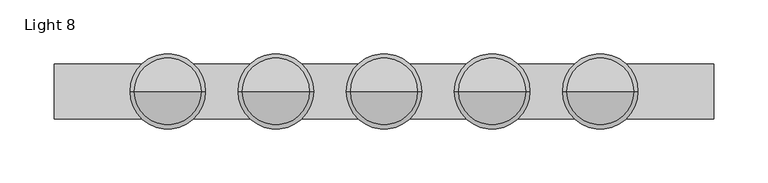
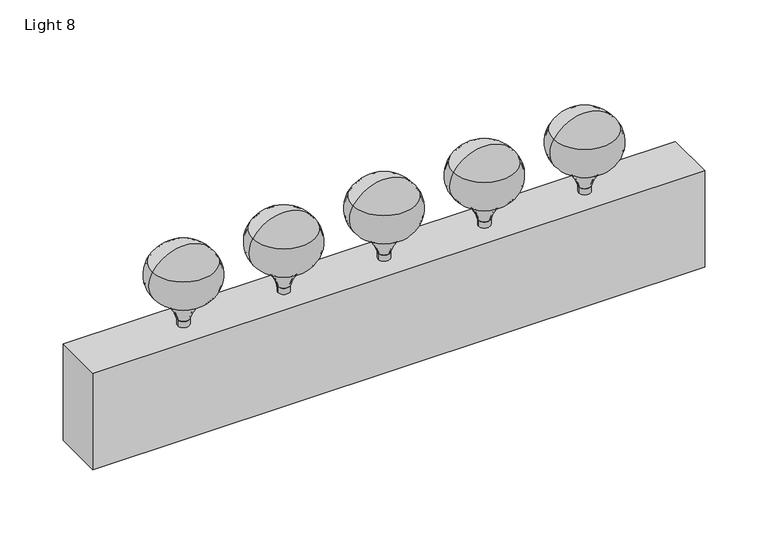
"""IFC4 building model written with IfcOpenShell, lengths in millimetres: light fixture geometry, Lighting_Fixtures_Sconce_Lamp_Cosmetic_LED : Light 8."""

from ifc_helpers import new_model, si_unit, point, frame, origin, origin_with_axes, place, context, project, spatial, polyline, circle_curve, ellipse_curve, trimmed, outline, extrude, source, transform, mapped, element, save
from ifc_brep_helpers import plane_surface, cylinder_surface, revolved_surface, advanced_brep


def light_8_5fd1197a(model_context):
    return source(origin(), model_context, "Body", "SolidModel", [
        advanced_brep(
        [(199.8265625, 0.0, 107.9422137), (205.6627439, 0.0, 107.9422137), (193.9903811, 0.0, 107.9422137), (193.9903811, 0.0, 101.6), (205.6627439, 0.0, 101.6), (199.8265625, 0.0, 101.6)],
        [
            (0, 1),
            (1, 2, circle_curve(frame((199.8265625, 0.0, 107.9422137), z_axis=(0.0, 0.0, 1.0), x_axis=(1.0, 0.0, 0.0)), 5.8361814)),
            (2, 0),
            (2, 1, circle_curve(frame((199.8265625, 0.0, 107.9422137), z_axis=(0.0, 0.0, 1.0), x_axis=(1.0, 0.0, 0.0)), 5.8361814)),
            (3, 4, circle_curve(frame((199.8265625, 0.0, 101.6), z_axis=(0.0, 0.0, -1.0), x_axis=(1.0, 0.0, 0.0)), 5.8361814)),
            (4, 5),
            (5, 3),
            (4, 3, circle_curve(frame((199.8265625, 0.0, 101.6), z_axis=(0.0, 0.0, -1.0), x_axis=(1.0, 0.0, 0.0)), 5.8361814)),
            (1, 4),
            (3, 2),
        ],
        [
            plane_surface(frame((199.8265625, 0.0, 107.9422137), z_axis=(0.0, 0.0, 1.0), x_axis=(1.0, 0.0, 0.0))),
            plane_surface(frame((199.8265625, 0.0, 101.6), z_axis=(0.0, 0.0, -1.0), x_axis=(1.0, 0.0, 0.0))),
            cylinder_surface(frame((199.8265625, 0.0, 321.7032089), z_axis=(0.0, 0.0, 1.0), x_axis=(1.0, 0.0, 0.0)), 5.8361814),
        ],
        [
            (0, [[1, 2, 3]]),
            (0, [[-3, 4, -1]]),
            (1, [[5, 6, 7]]),
            (1, [[8, -7, -6]]),
            (2, [[-2, 9, -5, 10]]),
            (2, [[-4, -10, -8, -9]]),
        ],
    ),
        advanced_brep(
        [(199.8265625, 0.0, 184.1499311), (230.7160179, 0.0, 167.1382009), (168.9371071, 0.0, 167.1382009), (167.448521, 0.0, 162.0288247), (232.204604, 0.0, 162.0288247), (199.8265625, 0.0, 183.2815308), (222.7102052, 0.0, 131.7088882), (176.9429198, 0.0, 131.7088882), (177.4246713, 0.0, 132.4714861), (222.2284537, 0.0, 132.4714861), (195.0778993, 0.0, 107.9422137), (204.5752257, 0.0, 107.9422137), (205.6771042, 0.0, 107.9422137), (193.9760208, 0.0, 107.9422137)],
        [
            (0, 1, circle_curve(frame((199.8265625, 0.0, 147.599933), z_axis=(0.0, 1.0, 0.0), x_axis=(1.0, 0.0, 0.0)), 36.5499982)),
            (1, 2, circle_curve(frame((199.8265625, 0.0, 167.1382009), z_axis=(0.0, 0.0, 1.0), x_axis=(1.0, 0.0, 0.0)), 30.8894554)),
            (2, 0, circle_curve(frame((199.8265625, 0.0, 147.599933), z_axis=(0.0, 1.0, 0.0), x_axis=(-1.0, 0.0, 0.0)), 36.5499982)),
            (2, 1, circle_curve(frame((199.8265625, 0.0, 167.1382009), z_axis=(0.0, 0.0, 1.0), x_axis=(1.0, 0.0, 0.0)), 30.8894554)),
            (3, 4, circle_curve(frame((199.8265625, 0.0, 162.0288247), z_axis=(0.0, 0.0, -1.0), x_axis=(1.0, 0.0, 0.0)), 32.3780415)),
            (4, 5, circle_curve(frame((200.9369381, 0.0, 149.6831855), z_axis=(0.0, -1.0, 0.0), x_axis=(1.0, 0.0, 0.0)), 33.6166884)),
            (5, 3, circle_curve(frame((198.7161869, 0.0, 149.6831855), z_axis=(0.0, -1.0, 0.0), x_axis=(-1.0, 0.0, 0.0)), 33.6166884)),
            (4, 3, circle_curve(frame((199.8265625, 0.0, 162.0288247), z_axis=(0.0, 0.0, -1.0), x_axis=(1.0, 0.0, 0.0)), 32.3780415)),
            (1, 6, circle_curve(frame((209.027683, 0.0, 153.4198464), z_axis=(0.0, 1.0, 0.0), x_axis=(1.0, 0.0, 0.0)), 25.6627574)),
            (6, 7, circle_curve(frame((199.8265625, 0.0, 131.7088882), z_axis=(0.0, 0.0, 1.0), x_axis=(1.0, 0.0, 0.0)), 22.8836427)),
            (7, 2, circle_curve(frame((190.625442, 0.0, 153.4198464), z_axis=(0.0, 1.0, 0.0), x_axis=(-1.0, 0.0, 0.0)), 25.6627574)),
            (7, 6, circle_curve(frame((199.8265625, 0.0, 131.7088882), z_axis=(0.0, 0.0, 1.0), x_axis=(1.0, 0.0, 0.0)), 22.8836427)),
            (8, 9, circle_curve(frame((199.8265625, 0.0, 132.4714861), z_axis=(0.0, 0.0, -1.0), x_axis=(1.0, 0.0, 0.0)), 22.4018912)),
            (9, 4, circle_curve(frame((209.7261352, 0.0, 153.1534879), z_axis=(0.0, -1.0, 0.0), x_axis=(1.0, 0.0, 0.0)), 24.167192)),
            (3, 8, circle_curve(frame((189.9269898, 0.0, 153.1534879), z_axis=(0.0, -1.0, 0.0), x_axis=(-1.0, 0.0, 0.0)), 24.167192)),
            (9, 8, circle_curve(frame((199.8265625, 0.0, 132.4714861), z_axis=(0.0, 0.0, -1.0), x_axis=(1.0, 0.0, 0.0)), 22.4018912)),
            (10, 11, circle_curve(frame((199.8265625, 0.0, 107.9422137), z_axis=(0.0, 0.0, -1.0), x_axis=(1.0, 0.0, 0.0)), 4.7486632)),
            (11, 9, circle_curve(frame((242.3743235, 0.0, 99.3559312), z_axis=(0.0, 1.0, 0.0), x_axis=(1.0, 0.0, 0.0)), 38.7620439)),
            (8, 10, circle_curve(frame((157.2788015, 0.0, 99.3559312), z_axis=(0.0, 1.0, 0.0), x_axis=(-1.0, 0.0, 0.0)), 38.7620439)),
            (11, 10, circle_curve(frame((199.8265625, 0.0, 107.9422137), z_axis=(0.0, 0.0, -1.0), x_axis=(1.0, 0.0, 0.0)), 4.7486632)),
            (6, 12, circle_curve(frame((243.6132338, 0.0, 98.7411262), z_axis=(0.0, -1.0, 0.0), x_axis=(1.0, 0.0, 0.0)), 39.0360082)),
            (12, 13, circle_curve(frame((199.8265625, 0.0, 107.9422137), z_axis=(0.0, 0.0, 1.0), x_axis=(1.0, 0.0, 0.0)), 5.8505417)),
            (13, 7, circle_curve(frame((156.0398912, 0.0, 98.7411262), z_axis=(0.0, -1.0, 0.0), x_axis=(-1.0, 0.0, 0.0)), 39.0360082)),
            (13, 12, circle_curve(frame((199.8265625, 0.0, 107.9422137), z_axis=(0.0, 0.0, 1.0), x_axis=(1.0, 0.0, 0.0)), 5.8505417)),
            (12, 11),
            (10, 13),
        ],
        [
            revolved_surface(trimmed(ellipse_curve(frame((199.8265625, 0.0, 147.599933), z_axis=(0.0, -1.0, 0.0), x_axis=(1.0, 0.0, 0.0)), 36.5499982, 36.5499982), [point((230.7160179, 0.0, 167.1382009))], [point((199.8265625, 0.0, 184.1499311))], True, "CARTESIAN"), (199.8265625, 0.0, 297.6243176), (0.0, 0.0, 1.0)),
            revolved_surface(trimmed(ellipse_curve(frame((200.9369381, 0.0, 149.6831855), z_axis=(0.0, 1.0, 0.0), x_axis=(1.0, 0.0, 0.0)), 33.6166884, 33.6166884), [point((199.8265625, 0.0, 183.2815308))], [point((232.204604, 0.0, 162.0288247))], True, "CARTESIAN"), (199.8265625, 0.0, 297.6243176), (0.0, 0.0, 1.0)),
            revolved_surface(trimmed(ellipse_curve(frame((209.027683, 0.0, 153.4198464), z_axis=(0.0, -1.0, 0.0), x_axis=(1.0, 0.0, 0.0)), 25.6627574, 25.6627574), [point((222.7102052, 0.0, 131.7088882))], [point((230.7160178, 0.0, 167.1382008))], True, "CARTESIAN"), (199.8265625, 0.0, 297.6243176), (0.0, 0.0, 1.0)),
            revolved_surface(trimmed(ellipse_curve(frame((209.7261352, 0.0, 153.1534879), z_axis=(0.0, 1.0, 0.0), x_axis=(1.0, 0.0, 0.0)), 24.167192, 24.167192), [point((232.2046041, 0.0, 162.0288248))], [point((222.2284537, 0.0, 132.4714861))], True, "CARTESIAN"), (199.8265625, 0.0, 297.6243176), (0.0, 0.0, 1.0)),
            revolved_surface(trimmed(ellipse_curve(frame((242.3743235, 0.0, 99.3559312), z_axis=(0.0, -1.0, 0.0), x_axis=(1.0, 0.0, 0.0)), 38.7620439, 38.7620439), [point((222.2284537, 0.0, 132.4714861))], [point((204.5752257, 0.0, 107.9422137))], True, "CARTESIAN"), (199.8265625, 0.0, 297.6243176), (0.0, 0.0, 1.0)),
            revolved_surface(trimmed(ellipse_curve(frame((243.6132338, 0.0, 98.7411262), z_axis=(0.0, 1.0, 0.0), x_axis=(1.0, 0.0, 0.0)), 39.0360082, 39.0360082), [point((205.6771042, 0.0, 107.9422137))], [point((222.7102052, 0.0, 131.7088882))], True, "CARTESIAN"), (199.8265625, 0.0, 297.6243176), (0.0, 0.0, 1.0)),
            plane_surface(frame((199.8265625, 0.0, 107.9422137), z_axis=(0.0, 0.0, -1.0), x_axis=(1.0, 0.0, 0.0))),
        ],
        [
            (0, [[1, 2, 3]]),
            (0, [[-3, 4, -1]]),
            (1, [[5, 6, 7]]),
            (1, [[8, -7, -6]]),
            (2, [[-2, 9, 10, 11]]),
            (2, [[-4, -11, 12, -9]]),
            (3, [[13, 14, -5, 15]]),
            (3, [[16, -15, -8, -14]]),
            (4, [[17, 18, -13, 19]]),
            (4, [[20, -19, -16, -18]]),
            (5, [[-10, 21, 22, 23]]),
            (5, [[-12, -23, 24, -21]]),
            (6, [[-22, 25, -17, 26]]),
            (6, [[-24, -26, -20, -25]]),
        ],
    ),
        advanced_brep(
        [(99.9132813, 0.0, 107.9422137), (105.7494627, 0.0, 107.9422137), (94.0770998, 0.0, 107.9422137), (94.0770998, 0.0, 101.6), (105.7494627, 0.0, 101.6), (99.9132813, 0.0, 101.6)],
        [
            (0, 1),
            (1, 2, circle_curve(frame((99.9132813, 0.0, 107.9422137), z_axis=(0.0, 0.0, 1.0), x_axis=(1.0, 0.0, 0.0)), 5.8361814)),
            (2, 0),
            (2, 1, circle_curve(frame((99.9132813, 0.0, 107.9422137), z_axis=(0.0, 0.0, 1.0), x_axis=(1.0, 0.0, 0.0)), 5.8361814)),
            (3, 4, circle_curve(frame((99.9132813, 0.0, 101.6), z_axis=(0.0, 0.0, -1.0), x_axis=(1.0, 0.0, 0.0)), 5.8361814)),
            (4, 5),
            (5, 3),
            (4, 3, circle_curve(frame((99.9132813, 0.0, 101.6), z_axis=(0.0, 0.0, -1.0), x_axis=(1.0, 0.0, 0.0)), 5.8361814)),
            (1, 4),
            (3, 2),
        ],
        [
            plane_surface(frame((99.9132813, 0.0, 107.9422137), z_axis=(0.0, 0.0, 1.0), x_axis=(1.0, 0.0, 0.0))),
            plane_surface(frame((99.9132813, 0.0, 101.6), z_axis=(0.0, 0.0, -1.0), x_axis=(1.0, 0.0, 0.0))),
            cylinder_surface(frame((99.9132813, 0.0, 321.7032089), z_axis=(0.0, 0.0, 1.0), x_axis=(1.0, 0.0, 0.0)), 5.8361814),
        ],
        [
            (0, [[1, 2, 3]]),
            (0, [[-3, 4, -1]]),
            (1, [[5, 6, 7]]),
            (1, [[8, -7, -6]]),
            (2, [[-2, 9, -5, 10]]),
            (2, [[-4, -10, -8, -9]]),
        ],
    ),
        advanced_brep(
        [(99.9132812, 0.0, 184.1499311), (130.8027366, 0.0, 167.1382009), (69.0238259, 0.0, 167.1382009), (67.5352397, 0.0, 162.0288247), (132.2913228, 0.0, 162.0288247), (99.9132812, 0.0, 183.2815308), (122.7969239, 0.0, 131.7088882), (77.0296386, 0.0, 131.7088882), (77.5113901, 0.0, 132.4714861), (122.3151724, 0.0, 132.4714861), (95.1646181, 0.0, 107.9422137), (104.6619444, 0.0, 107.9422137), (105.763823, 0.0, 107.9422137), (94.0627395, 0.0, 107.9422137)],
        [
            (0, 1, circle_curve(frame((99.9132813, 0.0, 147.599933), z_axis=(0.0, 1.0, 0.0), x_axis=(1.0, 0.0, 0.0)), 36.5499982)),
            (1, 2, circle_curve(frame((99.9132813, 0.0, 167.1382009), z_axis=(0.0, 0.0, 1.0), x_axis=(1.0, 0.0, 0.0)), 30.8894554)),
            (2, 0, circle_curve(frame((99.9132813, 0.0, 147.599933), z_axis=(0.0, 1.0, 0.0), x_axis=(-1.0, 0.0, 0.0)), 36.5499982)),
            (2, 1, circle_curve(frame((99.9132813, 0.0, 167.1382009), z_axis=(0.0, 0.0, 1.0), x_axis=(1.0, 0.0, 0.0)), 30.8894554)),
            (3, 4, circle_curve(frame((99.9132813, 0.0, 162.0288247), z_axis=(0.0, 0.0, -1.0), x_axis=(1.0, 0.0, 0.0)), 32.3780415)),
            (4, 5, circle_curve(frame((101.0236568, 0.0, 149.6831855), z_axis=(0.0, -1.0, 0.0), x_axis=(1.0, 0.0, 0.0)), 33.6166884)),
            (5, 3, circle_curve(frame((98.8029057, 0.0, 149.6831855), z_axis=(0.0, -1.0, 0.0), x_axis=(-1.0, 0.0, 0.0)), 33.6166884)),
            (4, 3, circle_curve(frame((99.9132813, 0.0, 162.0288247), z_axis=(0.0, 0.0, -1.0), x_axis=(1.0, 0.0, 0.0)), 32.3780415)),
            (1, 6, circle_curve(frame((109.1144017, 0.0, 153.4198464), z_axis=(0.0, 1.0, 0.0), x_axis=(1.0, 0.0, 0.0)), 25.6627574)),
            (6, 7, circle_curve(frame((99.9132813, 0.0, 131.7088882), z_axis=(0.0, 0.0, 1.0), x_axis=(1.0, 0.0, 0.0)), 22.8836427)),
            (7, 2, circle_curve(frame((90.7121608, 0.0, 153.4198464), z_axis=(0.0, 1.0, 0.0), x_axis=(-1.0, 0.0, 0.0)), 25.6627574)),
            (7, 6, circle_curve(frame((99.9132813, 0.0, 131.7088882), z_axis=(0.0, 0.0, 1.0), x_axis=(1.0, 0.0, 0.0)), 22.8836427)),
            (8, 9, circle_curve(frame((99.9132813, 0.0, 132.4714861), z_axis=(0.0, 0.0, -1.0), x_axis=(1.0, 0.0, 0.0)), 22.4018912)),
            (9, 4, circle_curve(frame((109.8128539, 0.0, 153.1534879), z_axis=(0.0, -1.0, 0.0), x_axis=(1.0, 0.0, 0.0)), 24.167192)),
            (3, 8, circle_curve(frame((90.0137086, 0.0, 153.1534879), z_axis=(0.0, -1.0, 0.0), x_axis=(-1.0, 0.0, 0.0)), 24.167192)),
            (9, 8, circle_curve(frame((99.9132813, 0.0, 132.4714861), z_axis=(0.0, 0.0, -1.0), x_axis=(1.0, 0.0, 0.0)), 22.4018912)),
            (10, 11, circle_curve(frame((99.9132813, 0.0, 107.9422137), z_axis=(0.0, 0.0, -1.0), x_axis=(1.0, 0.0, 0.0)), 4.7486632)),
            (11, 9, circle_curve(frame((142.4610423, 0.0, 99.3559312), z_axis=(0.0, 1.0, 0.0), x_axis=(1.0, 0.0, 0.0)), 38.7620439)),
            (8, 10, circle_curve(frame((57.3655202, 0.0, 99.3559312), z_axis=(0.0, 1.0, 0.0), x_axis=(-1.0, 0.0, 0.0)), 38.7620439)),
            (11, 10, circle_curve(frame((99.9132813, 0.0, 107.9422137), z_axis=(0.0, 0.0, -1.0), x_axis=(1.0, 0.0, 0.0)), 4.7486632)),
            (6, 12, circle_curve(frame((143.6999525, 0.0, 98.7411262), z_axis=(0.0, -1.0, 0.0), x_axis=(1.0, 0.0, 0.0)), 39.0360082)),
            (12, 13, circle_curve(frame((99.9132813, 0.0, 107.9422137), z_axis=(0.0, 0.0, 1.0), x_axis=(1.0, 0.0, 0.0)), 5.8505417)),
            (13, 7, circle_curve(frame((56.12661, 0.0, 98.7411262), z_axis=(0.0, -1.0, 0.0), x_axis=(-1.0, 0.0, 0.0)), 39.0360082)),
            (13, 12, circle_curve(frame((99.9132813, 0.0, 107.9422137), z_axis=(0.0, 0.0, 1.0), x_axis=(1.0, 0.0, 0.0)), 5.8505417)),
            (12, 11),
            (10, 13),
        ],
        [
            revolved_surface(trimmed(ellipse_curve(frame((99.9132813, 0.0, 147.599933), z_axis=(0.0, -1.0, 0.0), x_axis=(1.0, 0.0, 0.0)), 36.5499982, 36.5499982), [point((130.8027366, 0.0, 167.1382009))], [point((99.9132812, 0.0, 184.1499311))], True, "CARTESIAN"), (99.9132813, 0.0, 297.6243176), (0.0, 0.0, 1.0)),
            revolved_surface(trimmed(ellipse_curve(frame((101.0236568, 0.0, 149.6831855), z_axis=(0.0, 1.0, 0.0), x_axis=(1.0, 0.0, 0.0)), 33.6166884, 33.6166884), [point((99.9132812, 0.0, 183.2815308))], [point((132.2913228, 0.0, 162.0288247))], True, "CARTESIAN"), (99.9132813, 0.0, 297.6243176), (0.0, 0.0, 1.0)),
            revolved_surface(trimmed(ellipse_curve(frame((109.1144017, 0.0, 153.4198464), z_axis=(0.0, -1.0, 0.0), x_axis=(1.0, 0.0, 0.0)), 25.6627574, 25.6627574), [point((122.7969239, 0.0, 131.7088882))], [point((130.8027366, 0.0, 167.1382008))], True, "CARTESIAN"), (99.9132813, 0.0, 297.6243176), (0.0, 0.0, 1.0)),
            revolved_surface(trimmed(ellipse_curve(frame((109.8128539, 0.0, 153.1534879), z_axis=(0.0, 1.0, 0.0), x_axis=(1.0, 0.0, 0.0)), 24.167192, 24.167192), [point((132.2913228, 0.0, 162.0288248))], [point((122.3151724, 0.0, 132.4714861))], True, "CARTESIAN"), (99.9132813, 0.0, 297.6243176), (0.0, 0.0, 1.0)),
            revolved_surface(trimmed(ellipse_curve(frame((142.4610423, 0.0, 99.3559312), z_axis=(0.0, -1.0, 0.0), x_axis=(1.0, 0.0, 0.0)), 38.7620439, 38.7620439), [point((122.3151724, 0.0, 132.4714861))], [point((104.6619444, 0.0, 107.9422137))], True, "CARTESIAN"), (99.9132813, 0.0, 297.6243176), (0.0, 0.0, 1.0)),
            revolved_surface(trimmed(ellipse_curve(frame((143.6999525, 0.0, 98.7411262), z_axis=(0.0, 1.0, 0.0), x_axis=(1.0, 0.0, 0.0)), 39.0360082, 39.0360082), [point((105.763823, 0.0, 107.9422137))], [point((122.7969239, 0.0, 131.7088882))], True, "CARTESIAN"), (99.9132813, 0.0, 297.6243176), (0.0, 0.0, 1.0)),
            plane_surface(frame((99.9132813, 0.0, 107.9422137), z_axis=(0.0, 0.0, -1.0), x_axis=(1.0, 0.0, 0.0))),
        ],
        [
            (0, [[1, 2, 3]]),
            (0, [[-3, 4, -1]]),
            (1, [[5, 6, 7]]),
            (1, [[8, -7, -6]]),
            (2, [[-2, 9, 10, 11]]),
            (2, [[-4, -11, 12, -9]]),
            (3, [[13, 14, -5, 15]]),
            (3, [[16, -15, -8, -14]]),
            (4, [[17, 18, -13, 19]]),
            (4, [[20, -19, -16, -18]]),
            (5, [[-10, 21, 22, 23]]),
            (5, [[-12, -23, 24, -21]]),
            (6, [[-22, 25, -17, 26]]),
            (6, [[-24, -26, -20, -25]]),
        ],
    ),
        advanced_brep(
        [(0.0, 0.0, 107.9422137), (5.8361814, 0.0, 107.9422137), (-5.8361814, 0.0, 107.9422137), (-5.8361814, 0.0, 101.6), (5.8361814, 0.0, 101.6), (0.0, 0.0, 101.6)],
        [
            (0, 1),
            (1, 2, circle_curve(frame((0.0, 0.0, 107.9422137), z_axis=(0.0, 0.0, 1.0), x_axis=(1.0, 0.0, 0.0)), 5.8361814)),
            (2, 0),
            (2, 1, circle_curve(frame((0.0, 0.0, 107.9422137), z_axis=(0.0, 0.0, 1.0), x_axis=(1.0, 0.0, 0.0)), 5.8361814)),
            (3, 4, circle_curve(frame((0.0, 0.0, 101.6), z_axis=(0.0, 0.0, -1.0), x_axis=(1.0, 0.0, 0.0)), 5.8361814)),
            (4, 5),
            (5, 3),
            (4, 3, circle_curve(frame((0.0, 0.0, 101.6), z_axis=(0.0, 0.0, -1.0), x_axis=(1.0, 0.0, 0.0)), 5.8361814)),
            (1, 4),
            (3, 2),
        ],
        [
            plane_surface(frame((0.0, 0.0, 107.9422137), z_axis=(0.0, 0.0, 1.0), x_axis=(1.0, 0.0, 0.0))),
            plane_surface(frame((0.0, 0.0, 101.6), z_axis=(0.0, 0.0, -1.0), x_axis=(1.0, 0.0, 0.0))),
            cylinder_surface(frame((0.0, 0.0, 321.7032089), z_axis=(0.0, 0.0, 1.0), x_axis=(1.0, 0.0, 0.0)), 5.8361814),
        ],
        [
            (0, [[1, 2, 3]]),
            (0, [[-3, 4, -1]]),
            (1, [[5, 6, 7]]),
            (1, [[8, -7, -6]]),
            (2, [[-2, 9, -5, 10]]),
            (2, [[-4, -10, -8, -9]]),
        ],
    ),
        advanced_brep(
        [(0.0, 0.0, 184.1499311), (30.8894554, 0.0, 167.1382009), (-30.8894554, 0.0, 167.1382009), (-32.3780415, 0.0, 162.0288247), (32.3780415, 0.0, 162.0288247), (0.0, 0.0, 183.2815308), (22.8836427, 0.0, 131.7088882), (-22.8836427, 0.0, 131.7088882), (-22.4018912, 0.0, 132.4714861), (22.4018912, 0.0, 132.4714861), (-4.7486632, 0.0, 107.9422137), (4.7486632, 0.0, 107.9422137), (5.8505417, 0.0, 107.9422137), (-5.8505417, 0.0, 107.9422137)],
        [
            (0, 1, circle_curve(frame((0.0, 0.0, 147.599933), z_axis=(0.0, 1.0, 0.0), x_axis=(1.0, 0.0, 0.0)), 36.5499982)),
            (1, 2, circle_curve(frame((0.0, 0.0, 167.1382009), z_axis=(0.0, 0.0, 1.0), x_axis=(1.0, 0.0, 0.0)), 30.8894554)),
            (2, 0, circle_curve(frame((0.0, 0.0, 147.599933), z_axis=(0.0, 1.0, 0.0), x_axis=(-1.0, 0.0, 0.0)), 36.5499982)),
            (2, 1, circle_curve(frame((0.0, 0.0, 167.1382009), z_axis=(0.0, 0.0, 1.0), x_axis=(1.0, 0.0, 0.0)), 30.8894554)),
            (3, 4, circle_curve(frame((0.0, 0.0, 162.0288247), z_axis=(0.0, 0.0, -1.0), x_axis=(1.0, 0.0, 0.0)), 32.3780415)),
            (4, 5, circle_curve(frame((1.1103756, 0.0, 149.6831855), z_axis=(0.0, -1.0, 0.0), x_axis=(1.0, 0.0, 0.0)), 33.6166884)),
            (5, 3, circle_curve(frame((-1.1103756, 0.0, 149.6831855), z_axis=(0.0, -1.0, 0.0), x_axis=(-1.0, 0.0, 0.0)), 33.6166884)),
            (4, 3, circle_curve(frame((0.0, 0.0, 162.0288247), z_axis=(0.0, 0.0, -1.0), x_axis=(1.0, 0.0, 0.0)), 32.3780415)),
            (1, 6, circle_curve(frame((9.2011205, 0.0, 153.4198464), z_axis=(0.0, 1.0, 0.0), x_axis=(1.0, 0.0, 0.0)), 25.6627574)),
            (6, 7, circle_curve(frame((0.0, 0.0, 131.7088882), z_axis=(0.0, 0.0, 1.0), x_axis=(1.0, 0.0, 0.0)), 22.8836427)),
            (7, 2, circle_curve(frame((-9.2011205, 0.0, 153.4198464), z_axis=(0.0, 1.0, 0.0), x_axis=(-1.0, 0.0, 0.0)), 25.6627574)),
            (7, 6, circle_curve(frame((0.0, 0.0, 131.7088882), z_axis=(0.0, 0.0, 1.0), x_axis=(1.0, 0.0, 0.0)), 22.8836427)),
            (8, 9, circle_curve(frame((0.0, 0.0, 132.4714861), z_axis=(0.0, 0.0, -1.0), x_axis=(1.0, 0.0, 0.0)), 22.4018912)),
            (9, 4, circle_curve(frame((9.8995727, 0.0, 153.1534879), z_axis=(0.0, -1.0, 0.0), x_axis=(1.0, 0.0, 0.0)), 24.167192)),
            (3, 8, circle_curve(frame((-9.8995727, 0.0, 153.1534879), z_axis=(0.0, -1.0, 0.0), x_axis=(-1.0, 0.0, 0.0)), 24.167192)),
            (9, 8, circle_curve(frame((0.0, 0.0, 132.4714861), z_axis=(0.0, 0.0, -1.0), x_axis=(1.0, 0.0, 0.0)), 22.4018912)),
            (10, 11, circle_curve(frame((0.0, 0.0, 107.9422137), z_axis=(0.0, 0.0, -1.0), x_axis=(1.0, 0.0, 0.0)), 4.7486632)),
            (11, 9, circle_curve(frame((42.547761, 0.0, 99.3559312), z_axis=(0.0, 1.0, 0.0), x_axis=(1.0, 0.0, 0.0)), 38.7620439)),
            (8, 10, circle_curve(frame((-42.547761, 0.0, 99.3559312), z_axis=(0.0, 1.0, 0.0), x_axis=(-1.0, 0.0, 0.0)), 38.7620439)),
            (11, 10, circle_curve(frame((0.0, 0.0, 107.9422137), z_axis=(0.0, 0.0, -1.0), x_axis=(1.0, 0.0, 0.0)), 4.7486632)),
            (6, 12, circle_curve(frame((43.7866713, 0.0, 98.7411262), z_axis=(0.0, -1.0, 0.0), x_axis=(1.0, 0.0, 0.0)), 39.0360082)),
            (12, 13, circle_curve(frame((0.0, 0.0, 107.9422137), z_axis=(0.0, 0.0, 1.0), x_axis=(1.0, 0.0, 0.0)), 5.8505417)),
            (13, 7, circle_curve(frame((-43.7866713, 0.0, 98.7411262), z_axis=(0.0, -1.0, 0.0), x_axis=(-1.0, 0.0, 0.0)), 39.0360082)),
            (13, 12, circle_curve(frame((0.0, 0.0, 107.9422137), z_axis=(0.0, 0.0, 1.0), x_axis=(1.0, 0.0, 0.0)), 5.8505417)),
            (12, 11),
            (10, 13),
        ],
        [
            revolved_surface(trimmed(ellipse_curve(frame((0.0, 0.0, 147.599933), z_axis=(0.0, -1.0, 0.0), x_axis=(1.0, 0.0, 0.0)), 36.5499982, 36.5499982), [point((30.8894554, 0.0, 167.1382009))], [point((0.0, 0.0, 184.1499311))], True, "CARTESIAN"), (0.0, 0.0, 297.6243176), (0.0, 0.0, 1.0)),
            revolved_surface(trimmed(ellipse_curve(frame((1.1103756, 0.0, 149.6831855), z_axis=(0.0, 1.0, 0.0), x_axis=(1.0, 0.0, 0.0)), 33.6166884, 33.6166884), [point((0.0, 0.0, 183.2815308))], [point((32.3780415, 0.0, 162.0288247))], True, "CARTESIAN"), (0.0, 0.0, 297.6243176), (0.0, 0.0, 1.0)),
            revolved_surface(trimmed(ellipse_curve(frame((9.2011205, 0.0, 153.4198464), z_axis=(0.0, -1.0, 0.0), x_axis=(1.0, 0.0, 0.0)), 25.6627574, 25.6627574), [point((22.8836427, 0.0, 131.7088882))], [point((30.8894553, 0.0, 167.1382008))], True, "CARTESIAN"), (0.0, 0.0, 297.6243176), (0.0, 0.0, 1.0)),
            revolved_surface(trimmed(ellipse_curve(frame((9.8995727, 0.0, 153.1534879), z_axis=(0.0, 1.0, 0.0), x_axis=(1.0, 0.0, 0.0)), 24.167192, 24.167192), [point((32.3780416, 0.0, 162.0288248))], [point((22.4018912, 0.0, 132.4714861))], True, "CARTESIAN"), (0.0, 0.0, 297.6243176), (0.0, 0.0, 1.0)),
            revolved_surface(trimmed(ellipse_curve(frame((42.547761, 0.0, 99.3559312), z_axis=(0.0, -1.0, 0.0), x_axis=(1.0, 0.0, 0.0)), 38.7620439, 38.7620439), [point((22.4018912, 0.0, 132.4714861))], [point((4.7486632, 0.0, 107.9422137))], True, "CARTESIAN"), (0.0, 0.0, 297.6243176), (0.0, 0.0, 1.0)),
            revolved_surface(trimmed(ellipse_curve(frame((43.7866713, 0.0, 98.7411262), z_axis=(0.0, 1.0, 0.0), x_axis=(1.0, 0.0, 0.0)), 39.0360082, 39.0360082), [point((5.8505417, 0.0, 107.9422137))], [point((22.8836427, 0.0, 131.7088882))], True, "CARTESIAN"), (0.0, 0.0, 297.6243176), (0.0, 0.0, 1.0)),
            plane_surface(frame((0.0, 0.0, 107.9422137), z_axis=(0.0, 0.0, -1.0), x_axis=(1.0, 0.0, 0.0))),
        ],
        [
            (0, [[1, 2, 3]]),
            (0, [[-3, 4, -1]]),
            (1, [[5, 6, 7]]),
            (1, [[8, -7, -6]]),
            (2, [[-2, 9, 10, 11]]),
            (2, [[-4, -11, 12, -9]]),
            (3, [[13, 14, -5, 15]]),
            (3, [[16, -15, -8, -14]]),
            (4, [[17, 18, -13, 19]]),
            (4, [[20, -19, -16, -18]]),
            (5, [[-10, 21, 22, 23]]),
            (5, [[-12, -23, 24, -21]]),
            (6, [[-22, 25, -17, 26]]),
            (6, [[-24, -26, -20, -25]]),
        ],
    ),
        advanced_brep(
        [(-99.9132812, 0.0, 107.9422137), (-94.0770998, 0.0, 107.9422137), (-105.7494627, 0.0, 107.9422137), (-105.7494627, 0.0, 101.6), (-94.0770998, 0.0, 101.6), (-99.9132812, 0.0, 101.6)],
        [
            (0, 1),
            (1, 2, circle_curve(frame((-99.9132812, 0.0, 107.9422137), z_axis=(0.0, 0.0, 1.0), x_axis=(1.0, 0.0, 0.0)), 5.8361814)),
            (2, 0),
            (2, 1, circle_curve(frame((-99.9132812, 0.0, 107.9422137), z_axis=(0.0, 0.0, 1.0), x_axis=(1.0, 0.0, 0.0)), 5.8361814)),
            (3, 4, circle_curve(frame((-99.9132812, 0.0, 101.6), z_axis=(0.0, 0.0, -1.0), x_axis=(1.0, 0.0, 0.0)), 5.8361814)),
            (4, 5),
            (5, 3),
            (4, 3, circle_curve(frame((-99.9132812, 0.0, 101.6), z_axis=(0.0, 0.0, -1.0), x_axis=(1.0, 0.0, 0.0)), 5.8361814)),
            (1, 4),
            (3, 2),
        ],
        [
            plane_surface(frame((-99.9132812, 0.0, 107.9422137), z_axis=(0.0, 0.0, 1.0), x_axis=(1.0, 0.0, 0.0))),
            plane_surface(frame((-99.9132812, 0.0, 101.6), z_axis=(0.0, 0.0, -1.0), x_axis=(1.0, 0.0, 0.0))),
            cylinder_surface(frame((-99.9132812, 0.0, 321.7032089), z_axis=(0.0, 0.0, 1.0), x_axis=(1.0, 0.0, 0.0)), 5.8361814),
        ],
        [
            (0, [[1, 2, 3]]),
            (0, [[-3, 4, -1]]),
            (1, [[5, 6, 7]]),
            (1, [[8, -7, -6]]),
            (2, [[-2, 9, -5, 10]]),
            (2, [[-4, -10, -8, -9]]),
        ],
    ),
        advanced_brep(
        [(-99.9132813, 0.0, 184.1499311), (-69.0238259, 0.0, 167.1382009), (-130.8027366, 0.0, 167.1382009), (-132.2913228, 0.0, 162.0288247), (-67.5352397, 0.0, 162.0288247), (-99.9132813, 0.0, 183.2815308), (-77.0296386, 0.0, 131.7088882), (-122.7969239, 0.0, 131.7088882), (-122.3151724, 0.0, 132.4714861), (-77.5113901, 0.0, 132.4714861), (-104.6619444, 0.0, 107.9422137), (-95.1646181, 0.0, 107.9422137), (-94.0627395, 0.0, 107.9422137), (-105.763823, 0.0, 107.9422137)],
        [
            (0, 1, circle_curve(frame((-99.9132812, 0.0, 147.599933), z_axis=(0.0, 1.0, 0.0), x_axis=(1.0, 0.0, 0.0)), 36.5499982)),
            (1, 2, circle_curve(frame((-99.9132812, 0.0, 167.1382009), z_axis=(0.0, 0.0, 1.0), x_axis=(1.0, 0.0, 0.0)), 30.8894554)),
            (2, 0, circle_curve(frame((-99.9132812, 0.0, 147.599933), z_axis=(0.0, 1.0, 0.0), x_axis=(-1.0, 0.0, 0.0)), 36.5499982)),
            (2, 1, circle_curve(frame((-99.9132812, 0.0, 167.1382009), z_axis=(0.0, 0.0, 1.0), x_axis=(1.0, 0.0, 0.0)), 30.8894554)),
            (3, 4, circle_curve(frame((-99.9132812, 0.0, 162.0288247), z_axis=(0.0, 0.0, -1.0), x_axis=(1.0, 0.0, 0.0)), 32.3780415)),
            (4, 5, circle_curve(frame((-98.8029057, 0.0, 149.6831855), z_axis=(0.0, -1.0, 0.0), x_axis=(1.0, 0.0, 0.0)), 33.6166884)),
            (5, 3, circle_curve(frame((-101.0236568, 0.0, 149.6831855), z_axis=(0.0, -1.0, 0.0), x_axis=(-1.0, 0.0, 0.0)), 33.6166884)),
            (4, 3, circle_curve(frame((-99.9132812, 0.0, 162.0288247), z_axis=(0.0, 0.0, -1.0), x_axis=(1.0, 0.0, 0.0)), 32.3780415)),
            (1, 6, circle_curve(frame((-90.7121608, 0.0, 153.4198464), z_axis=(0.0, 1.0, 0.0), x_axis=(1.0, 0.0, 0.0)), 25.6627574)),
            (6, 7, circle_curve(frame((-99.9132812, 0.0, 131.7088882), z_axis=(0.0, 0.0, 1.0), x_axis=(1.0, 0.0, 0.0)), 22.8836427)),
            (7, 2, circle_curve(frame((-109.1144017, 0.0, 153.4198464), z_axis=(0.0, 1.0, 0.0), x_axis=(-1.0, 0.0, 0.0)), 25.6627574)),
            (7, 6, circle_curve(frame((-99.9132812, 0.0, 131.7088882), z_axis=(0.0, 0.0, 1.0), x_axis=(1.0, 0.0, 0.0)), 22.8836427)),
            (8, 9, circle_curve(frame((-99.9132812, 0.0, 132.4714861), z_axis=(0.0, 0.0, -1.0), x_axis=(1.0, 0.0, 0.0)), 22.4018912)),
            (9, 4, circle_curve(frame((-90.0137086, 0.0, 153.1534879), z_axis=(0.0, -1.0, 0.0), x_axis=(1.0, 0.0, 0.0)), 24.167192)),
            (3, 8, circle_curve(frame((-109.8128539, 0.0, 153.1534879), z_axis=(0.0, -1.0, 0.0), x_axis=(-1.0, 0.0, 0.0)), 24.167192)),
            (9, 8, circle_curve(frame((-99.9132812, 0.0, 132.4714861), z_axis=(0.0, 0.0, -1.0), x_axis=(1.0, 0.0, 0.0)), 22.4018912)),
            (10, 11, circle_curve(frame((-99.9132812, 0.0, 107.9422137), z_axis=(0.0, 0.0, -1.0), x_axis=(1.0, 0.0, 0.0)), 4.7486632)),
            (11, 9, circle_curve(frame((-57.3655202, 0.0, 99.3559312), z_axis=(0.0, 1.0, 0.0), x_axis=(1.0, 0.0, 0.0)), 38.7620439)),
            (8, 10, circle_curve(frame((-142.4610423, 0.0, 99.3559312), z_axis=(0.0, 1.0, 0.0), x_axis=(-1.0, 0.0, 0.0)), 38.7620439)),
            (11, 10, circle_curve(frame((-99.9132812, 0.0, 107.9422137), z_axis=(0.0, 0.0, -1.0), x_axis=(1.0, 0.0, 0.0)), 4.7486632)),
            (6, 12, circle_curve(frame((-56.12661, 0.0, 98.7411262), z_axis=(0.0, -1.0, 0.0), x_axis=(1.0, 0.0, 0.0)), 39.0360082)),
            (12, 13, circle_curve(frame((-99.9132812, 0.0, 107.9422137), z_axis=(0.0, 0.0, 1.0), x_axis=(1.0, 0.0, 0.0)), 5.8505417)),
            (13, 7, circle_curve(frame((-143.6999525, 0.0, 98.7411262), z_axis=(0.0, -1.0, 0.0), x_axis=(-1.0, 0.0, 0.0)), 39.0360082)),
            (13, 12, circle_curve(frame((-99.9132812, 0.0, 107.9422137), z_axis=(0.0, 0.0, 1.0), x_axis=(1.0, 0.0, 0.0)), 5.8505417)),
            (12, 11),
            (10, 13),
        ],
        [
            revolved_surface(trimmed(ellipse_curve(frame((-99.9132812, 0.0, 147.599933), z_axis=(0.0, -1.0, 0.0), x_axis=(1.0, 0.0, 0.0)), 36.5499982, 36.5499982), [point((-69.0238259, 0.0, 167.1382009))], [point((-99.9132813, 0.0, 184.1499311))], True, "CARTESIAN"), (-99.9132812, 0.0, 297.6243176), (0.0, 0.0, 1.0)),
            revolved_surface(trimmed(ellipse_curve(frame((-98.8029057, 0.0, 149.6831855), z_axis=(0.0, 1.0, 0.0), x_axis=(1.0, 0.0, 0.0)), 33.6166884, 33.6166884), [point((-99.9132813, 0.0, 183.2815308))], [point((-67.5352397, 0.0, 162.0288247))], True, "CARTESIAN"), (-99.9132812, 0.0, 297.6243176), (0.0, 0.0, 1.0)),
            revolved_surface(trimmed(ellipse_curve(frame((-90.7121608, 0.0, 153.4198464), z_axis=(0.0, -1.0, 0.0), x_axis=(1.0, 0.0, 0.0)), 25.6627574, 25.6627574), [point((-77.0296386, 0.0, 131.7088882))], [point((-69.0238259, 0.0, 167.1382008))], True, "CARTESIAN"), (-99.9132812, 0.0, 297.6243176), (0.0, 0.0, 1.0)),
            revolved_surface(trimmed(ellipse_curve(frame((-90.0137086, 0.0, 153.1534879), z_axis=(0.0, 1.0, 0.0), x_axis=(1.0, 0.0, 0.0)), 24.167192, 24.167192), [point((-67.5352397, 0.0, 162.0288248))], [point((-77.5113901, 0.0, 132.4714861))], True, "CARTESIAN"), (-99.9132812, 0.0, 297.6243176), (0.0, 0.0, 1.0)),
            revolved_surface(trimmed(ellipse_curve(frame((-57.3655202, 0.0, 99.3559312), z_axis=(0.0, -1.0, 0.0), x_axis=(1.0, 0.0, 0.0)), 38.7620439, 38.7620439), [point((-77.5113901, 0.0, 132.4714861))], [point((-95.1646181, 0.0, 107.9422137))], True, "CARTESIAN"), (-99.9132812, 0.0, 297.6243176), (0.0, 0.0, 1.0)),
            revolved_surface(trimmed(ellipse_curve(frame((-56.12661, 0.0, 98.7411262), z_axis=(0.0, 1.0, 0.0), x_axis=(1.0, 0.0, 0.0)), 39.0360082, 39.0360082), [point((-94.0627395, 0.0, 107.9422137))], [point((-77.0296386, 0.0, 131.7088882))], True, "CARTESIAN"), (-99.9132812, 0.0, 297.6243176), (0.0, 0.0, 1.0)),
            plane_surface(frame((-99.9132812, 0.0, 107.9422137), z_axis=(0.0, 0.0, -1.0), x_axis=(1.0, 0.0, 0.0))),
        ],
        [
            (0, [[1, 2, 3]]),
            (0, [[-3, 4, -1]]),
            (1, [[5, 6, 7]]),
            (1, [[8, -7, -6]]),
            (2, [[-2, 9, 10, 11]]),
            (2, [[-4, -11, 12, -9]]),
            (3, [[13, 14, -5, 15]]),
            (3, [[16, -15, -8, -14]]),
            (4, [[17, 18, -13, 19]]),
            (4, [[20, -19, -16, -18]]),
            (5, [[-10, 21, 22, 23]]),
            (5, [[-12, -23, 24, -21]]),
            (6, [[-22, 25, -17, 26]]),
            (6, [[-24, -26, -20, -25]]),
        ],
    ),
        advanced_brep(
        [(-199.8265625, 0.0, 107.9422137), (-193.9903811, 0.0, 107.9422137), (-205.6627439, 0.0, 107.9422137), (-205.6627439, 0.0, 101.6), (-193.9903811, 0.0, 101.6), (-199.8265625, 0.0, 101.6)],
        [
            (0, 1),
            (1, 2, circle_curve(frame((-199.8265625, 0.0, 107.9422137), z_axis=(0.0, 0.0, 1.0), x_axis=(1.0, 0.0, 0.0)), 5.8361814)),
            (2, 0),
            (2, 1, circle_curve(frame((-199.8265625, 0.0, 107.9422137), z_axis=(0.0, 0.0, 1.0), x_axis=(1.0, 0.0, 0.0)), 5.8361814)),
            (3, 4, circle_curve(frame((-199.8265625, 0.0, 101.6), z_axis=(0.0, 0.0, -1.0), x_axis=(1.0, 0.0, 0.0)), 5.8361814)),
            (4, 5),
            (5, 3),
            (4, 3, circle_curve(frame((-199.8265625, 0.0, 101.6), z_axis=(0.0, 0.0, -1.0), x_axis=(1.0, 0.0, 0.0)), 5.8361814)),
            (1, 4),
            (3, 2),
        ],
        [
            plane_surface(frame((-199.8265625, 0.0, 107.9422137), z_axis=(0.0, 0.0, 1.0), x_axis=(1.0, 0.0, 0.0))),
            plane_surface(frame((-199.8265625, 0.0, 101.6), z_axis=(0.0, 0.0, -1.0), x_axis=(1.0, 0.0, 0.0))),
            cylinder_surface(frame((-199.8265625, 0.0, 321.7032089), z_axis=(0.0, 0.0, 1.0), x_axis=(1.0, 0.0, 0.0)), 5.8361814),
        ],
        [
            (0, [[1, 2, 3]]),
            (0, [[-3, 4, -1]]),
            (1, [[5, 6, 7]]),
            (1, [[8, -7, -6]]),
            (2, [[-2, 9, -5, 10]]),
            (2, [[-4, -10, -8, -9]]),
        ],
    ),
        advanced_brep(
        [(-199.8265625, 0.0, 184.1499311), (-168.9371071, 0.0, 167.1382009), (-230.7160179, 0.0, 167.1382009), (-232.204604, 0.0, 162.0288247), (-167.448521, 0.0, 162.0288247), (-199.8265625, 0.0, 183.2815308), (-176.9429198, 0.0, 131.7088882), (-222.7102052, 0.0, 131.7088882), (-222.2284537, 0.0, 132.4714861), (-177.4246713, 0.0, 132.4714861), (-204.5752257, 0.0, 107.9422137), (-195.0778993, 0.0, 107.9422137), (-193.9760208, 0.0, 107.9422137), (-205.6771042, 0.0, 107.9422137)],
        [
            (0, 1, circle_curve(frame((-199.8265625, 0.0, 147.599933), z_axis=(0.0, 1.0, 0.0), x_axis=(1.0, 0.0, 0.0)), 36.5499982)),
            (1, 2, circle_curve(frame((-199.8265625, 0.0, 167.1382009), z_axis=(0.0, 0.0, 1.0), x_axis=(1.0, 0.0, 0.0)), 30.8894554)),
            (2, 0, circle_curve(frame((-199.8265625, 0.0, 147.599933), z_axis=(0.0, 1.0, 0.0), x_axis=(-1.0, 0.0, 0.0)), 36.5499982)),
            (2, 1, circle_curve(frame((-199.8265625, 0.0, 167.1382009), z_axis=(0.0, 0.0, 1.0), x_axis=(1.0, 0.0, 0.0)), 30.8894554)),
            (3, 4, circle_curve(frame((-199.8265625, 0.0, 162.0288247), z_axis=(0.0, 0.0, -1.0), x_axis=(1.0, 0.0, 0.0)), 32.3780415)),
            (4, 5, circle_curve(frame((-198.7161869, 0.0, 149.6831855), z_axis=(0.0, -1.0, 0.0), x_axis=(1.0, 0.0, 0.0)), 33.6166884)),
            (5, 3, circle_curve(frame((-200.9369381, 0.0, 149.6831855), z_axis=(0.0, -1.0, 0.0), x_axis=(-1.0, 0.0, 0.0)), 33.6166884)),
            (4, 3, circle_curve(frame((-199.8265625, 0.0, 162.0288247), z_axis=(0.0, 0.0, -1.0), x_axis=(1.0, 0.0, 0.0)), 32.3780415)),
            (1, 6, circle_curve(frame((-190.625442, 0.0, 153.4198464), z_axis=(0.0, 1.0, 0.0), x_axis=(1.0, 0.0, 0.0)), 25.6627574)),
            (6, 7, circle_curve(frame((-199.8265625, 0.0, 131.7088882), z_axis=(0.0, 0.0, 1.0), x_axis=(1.0, 0.0, 0.0)), 22.8836427)),
            (7, 2, circle_curve(frame((-209.027683, 0.0, 153.4198464), z_axis=(0.0, 1.0, 0.0), x_axis=(-1.0, 0.0, 0.0)), 25.6627574)),
            (7, 6, circle_curve(frame((-199.8265625, 0.0, 131.7088882), z_axis=(0.0, 0.0, 1.0), x_axis=(1.0, 0.0, 0.0)), 22.8836427)),
            (8, 9, circle_curve(frame((-199.8265625, 0.0, 132.4714861), z_axis=(0.0, 0.0, -1.0), x_axis=(1.0, 0.0, 0.0)), 22.4018912)),
            (9, 4, circle_curve(frame((-189.9269898, 0.0, 153.1534879), z_axis=(0.0, -1.0, 0.0), x_axis=(1.0, 0.0, 0.0)), 24.167192)),
            (3, 8, circle_curve(frame((-209.7261352, 0.0, 153.1534879), z_axis=(0.0, -1.0, 0.0), x_axis=(-1.0, 0.0, 0.0)), 24.167192)),
            (9, 8, circle_curve(frame((-199.8265625, 0.0, 132.4714861), z_axis=(0.0, 0.0, -1.0), x_axis=(1.0, 0.0, 0.0)), 22.4018912)),
            (10, 11, circle_curve(frame((-199.8265625, 0.0, 107.9422137), z_axis=(0.0, 0.0, -1.0), x_axis=(1.0, 0.0, 0.0)), 4.7486632)),
            (11, 9, circle_curve(frame((-157.2788015, 0.0, 99.3559312), z_axis=(0.0, 1.0, 0.0), x_axis=(1.0, 0.0, 0.0)), 38.7620439)),
            (8, 10, circle_curve(frame((-242.3743235, 0.0, 99.3559312), z_axis=(0.0, 1.0, 0.0), x_axis=(-1.0, 0.0, 0.0)), 38.7620439)),
            (11, 10, circle_curve(frame((-199.8265625, 0.0, 107.9422137), z_axis=(0.0, 0.0, -1.0), x_axis=(1.0, 0.0, 0.0)), 4.7486632)),
            (6, 12, circle_curve(frame((-156.0398912, 0.0, 98.7411262), z_axis=(0.0, -1.0, 0.0), x_axis=(1.0, 0.0, 0.0)), 39.0360082)),
            (12, 13, circle_curve(frame((-199.8265625, 0.0, 107.9422137), z_axis=(0.0, 0.0, 1.0), x_axis=(1.0, 0.0, 0.0)), 5.8505417)),
            (13, 7, circle_curve(frame((-243.6132338, 0.0, 98.7411262), z_axis=(0.0, -1.0, 0.0), x_axis=(-1.0, 0.0, 0.0)), 39.0360082)),
            (13, 12, circle_curve(frame((-199.8265625, 0.0, 107.9422137), z_axis=(0.0, 0.0, 1.0), x_axis=(1.0, 0.0, 0.0)), 5.8505417)),
            (12, 11),
            (10, 13),
        ],
        [
            revolved_surface(trimmed(ellipse_curve(frame((-199.8265625, 0.0, 147.599933), z_axis=(0.0, -1.0, 0.0), x_axis=(1.0, 0.0, 0.0)), 36.5499982, 36.5499982), [point((-168.9371071, 0.0, 167.1382009))], [point((-199.8265625, 0.0, 184.1499311))], True, "CARTESIAN"), (-199.8265625, 0.0, 297.6243176), (0.0, 0.0, 1.0)),
            revolved_surface(trimmed(ellipse_curve(frame((-198.7161869, 0.0, 149.6831855), z_axis=(0.0, 1.0, 0.0), x_axis=(1.0, 0.0, 0.0)), 33.6166884, 33.6166884), [point((-199.8265625, 0.0, 183.2815308))], [point((-167.448521, 0.0, 162.0288247))], True, "CARTESIAN"), (-199.8265625, 0.0, 297.6243176), (0.0, 0.0, 1.0)),
            revolved_surface(trimmed(ellipse_curve(frame((-190.625442, 0.0, 153.4198464), z_axis=(0.0, -1.0, 0.0), x_axis=(1.0, 0.0, 0.0)), 25.6627574, 25.6627574), [point((-176.9429198, 0.0, 131.7088882))], [point((-168.9371072, 0.0, 167.1382008))], True, "CARTESIAN"), (-199.8265625, 0.0, 297.6243176), (0.0, 0.0, 1.0)),
            revolved_surface(trimmed(ellipse_curve(frame((-189.9269898, 0.0, 153.1534879), z_axis=(0.0, 1.0, 0.0), x_axis=(1.0, 0.0, 0.0)), 24.167192, 24.167192), [point((-167.4485209, 0.0, 162.0288248))], [point((-177.4246713, 0.0, 132.4714861))], True, "CARTESIAN"), (-199.8265625, 0.0, 297.6243176), (0.0, 0.0, 1.0)),
            revolved_surface(trimmed(ellipse_curve(frame((-157.2788015, 0.0, 99.3559312), z_axis=(0.0, -1.0, 0.0), x_axis=(1.0, 0.0, 0.0)), 38.7620439, 38.7620439), [point((-177.4246713, 0.0, 132.4714861))], [point((-195.0778993, 0.0, 107.9422137))], True, "CARTESIAN"), (-199.8265625, 0.0, 297.6243176), (0.0, 0.0, 1.0)),
            revolved_surface(trimmed(ellipse_curve(frame((-156.0398912, 0.0, 98.7411262), z_axis=(0.0, 1.0, 0.0), x_axis=(1.0, 0.0, 0.0)), 39.0360082, 39.0360082), [point((-193.9760208, 0.0, 107.9422137))], [point((-176.9429198, 0.0, 131.7088882))], True, "CARTESIAN"), (-199.8265625, 0.0, 297.6243176), (0.0, 0.0, 1.0)),
            plane_surface(frame((-199.8265625, 0.0, 107.9422137), z_axis=(0.0, 0.0, -1.0), x_axis=(1.0, 0.0, 0.0))),
        ],
        [
            (0, [[1, 2, 3]]),
            (0, [[-3, 4, -1]]),
            (1, [[5, 6, 7]]),
            (1, [[8, -7, -6]]),
            (2, [[-2, 9, 10, 11]]),
            (2, [[-4, -11, 12, -9]]),
            (3, [[13, 14, -5, 15]]),
            (3, [[16, -15, -8, -14]]),
            (4, [[17, 18, -13, 19]]),
            (4, [[20, -19, -16, -18]]),
            (5, [[-10, 21, 22, 23]]),
            (5, [[-12, -23, 24, -21]]),
            (6, [[-22, 25, -17, 26]]),
            (6, [[-24, -26, -20, -25]]),
        ],
    ),
        extrude(outline(polyline([(304.8, 25.4), (304.8, -25.4), (-304.8, -25.4), (-304.8, 25.4), (304.8, 25.4)])), origin_with_axes(), (0.0, 0.0, 1.0), 101.6),
    ])


if __name__ == "__main__":
    model = new_model("IFC4")
    model_context = context("Model", 3, world=origin())
    ifc_project = project(units=[si_unit("LENGTHUNIT", "METRE", prefix="MILLI")], contexts=[model_context])
    site = spatial("IfcSite", under=ifc_project)
    building = spatial("IfcBuilding", under=site)
    placement = place(None, origin())
    light_8_shape = light_8_5fd1197a(model_context)
    element("IfcLightFixture", 1, ObjectType="Lighting_Fixtures_Sconce_Lamp_Cosmetic_LED : Light 8", at=placement, inside=building, context=model_context, shape_type="MappedRepresentation", body=[
        mapped(light_8_shape, transform((0.0, 0.0, 0.0), x_axis=(1.0, 0.0, 0.0), y_axis=(0.0, 1.0, 0.0), z_axis=(0.0, 0.0, 1.0))),
    ])
    save(model, "model.ifc")
